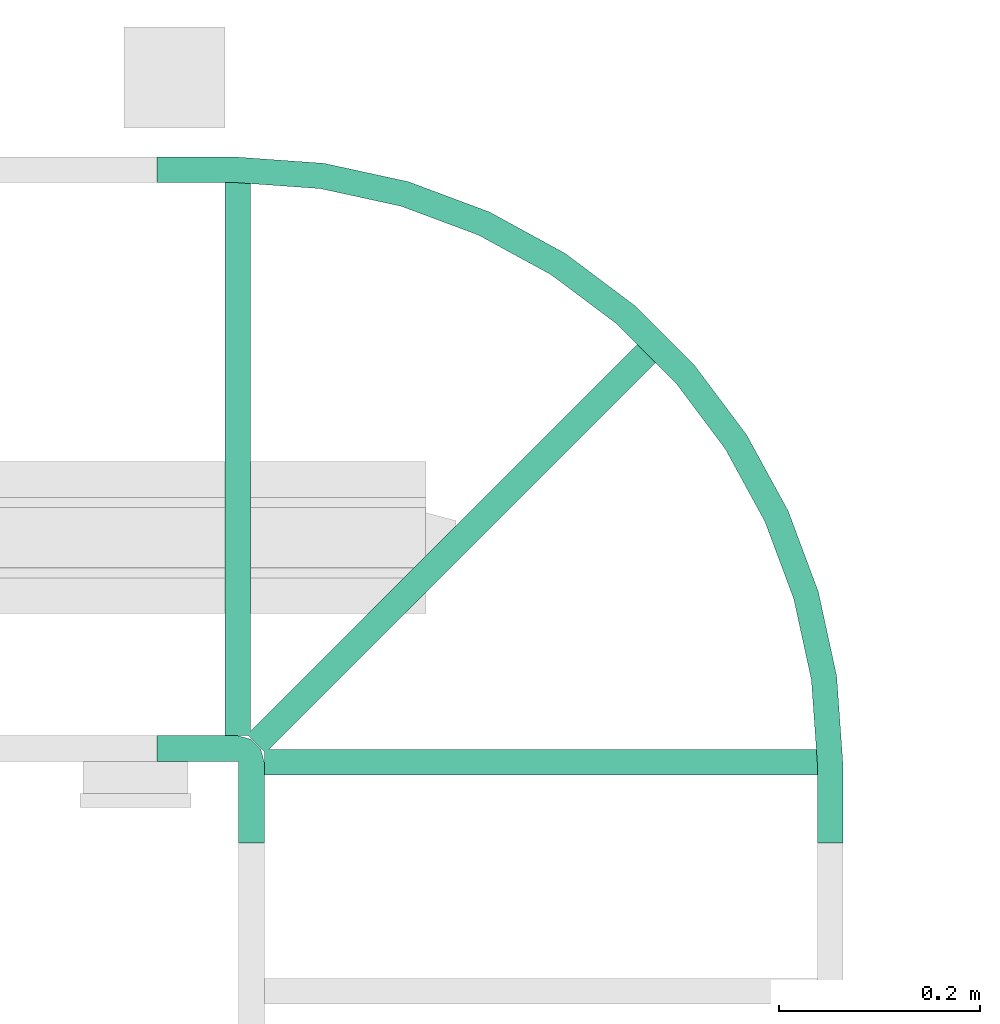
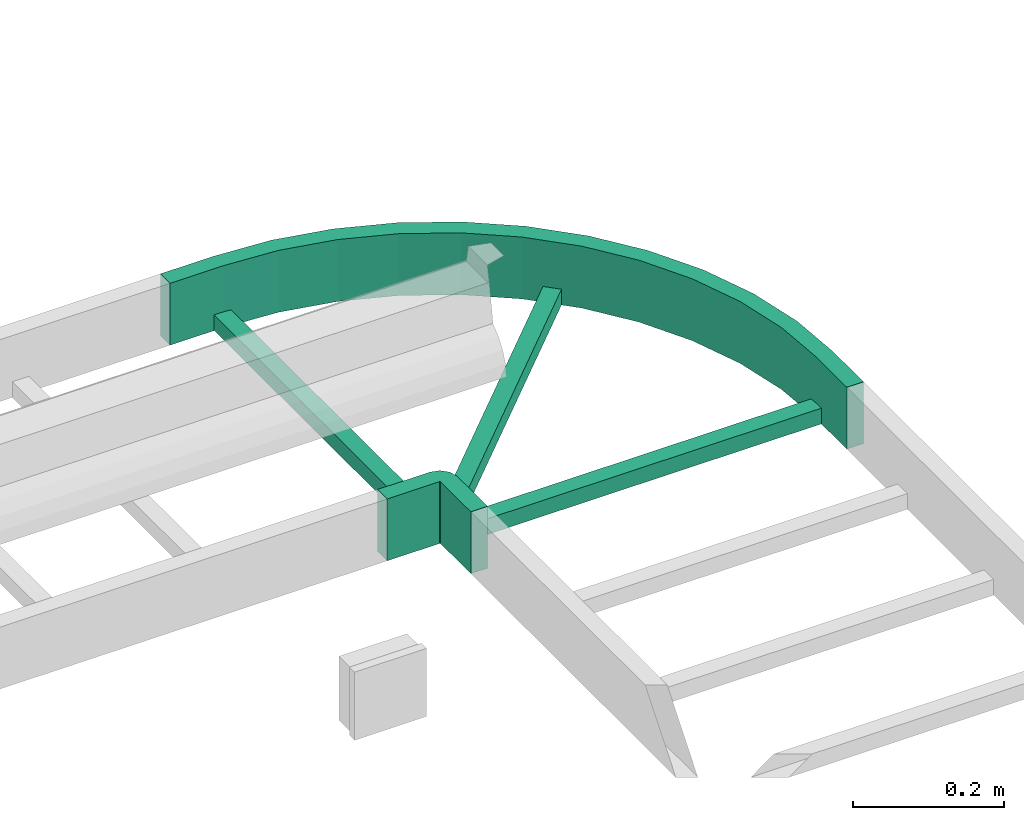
# One storey, part 13 of 14: 1 flow fitting.
"""IFC2X3 building model written with IfcOpenShell, lengths in millimetres."""

from ifc_helpers import new_model, entity, si_unit, converted_unit, derived_unit, direction, frame, origin_with_axes, place, context, subcontext, project, spatial, open_shell, surface_model, source, transform, mapped, type_object, element, save


model = new_model("IFC2X3")

# Units and contexts
model_context = context("Model", 3, precision=0.01, world=frame((0.0, 4.29681676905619e-09, 0.0)), true_north=direction((4.01073788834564e-13, 1.0)))
plan_context = context("Plan", 3, precision=0.01, world=frame((0.0, 4.29681676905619e-09, 0.0)), true_north=direction((4.01073788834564e-13, 1.0)))
body_context = subcontext(model_context, "Body", "Model", "MODEL_VIEW")
ifc_project = project(units=[converted_unit("PLANEANGLEUNIT", "DEGREE", entity("IfcPositiveLengthMeasure", 0.0174532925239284), si_unit("PLANEANGLEUNIT", "RADIAN"), dimensions=[0, 0, 0, 0, 0, 0, 0]), si_unit("AREAUNIT", "SQUARE_METRE"), si_unit("LENGTHUNIT", "METRE", prefix="MILLI"), si_unit("MASSUNIT", "GRAM", prefix="KILO"), si_unit("POWERUNIT", "WATT"), si_unit("PRESSUREUNIT", "PASCAL"), si_unit("FORCEUNIT", "NEWTON", prefix="KILO"), si_unit("ELECTRICVOLTAGEUNIT", "VOLT"), si_unit("ELECTRICCURRENTUNIT", "AMPERE"), si_unit("THERMODYNAMICTEMPERATUREUNIT", "DEGREE_CELSIUS"), si_unit("TIMEUNIT", "SECOND"), si_unit("VOLUMEUNIT", "CUBIC_METRE"), derived_unit("LINEARVELOCITYUNIT", [(si_unit("LENGTHUNIT", "METRE"), 1), (si_unit("TIMEUNIT", "SECOND"), -1)]), derived_unit("VOLUMETRICFLOWRATEUNIT", [(si_unit("VOLUMEUNIT", "CUBIC_METRE"), 1), (si_unit("TIMEUNIT", "SECOND"), -1)]), derived_unit("THERMALTRANSMITTANCEUNIT", [(si_unit("POWERUNIT", "WATT"), 1), (si_unit("THERMODYNAMICTEMPERATUREUNIT", "KELVIN"), -1), (si_unit("AREAUNIT", "SQUARE_METRE"), -1)]), derived_unit("SOUNDPRESSUREUNIT", [(si_unit("PRESSUREUNIT", "PASCAL"), 1)])], contexts=[model_context, plan_context])

# Site, building, storey
site_placement = place(None, frame((0.0, -4.29681676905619e-09, 0.0), z_axis=(0.0, 0.0, 1.0), x_axis=(1.0, 0.0, 0.0)))
site = spatial("IfcSite", under=ifc_project, at=site_placement, Name="ENGM", CompositionType="ELEMENT")
building_placement = place(site_placement, frame((0.0, 4.29681676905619e-09, 0.0), z_axis=(0.0, 0.0, 1.0), x_axis=(1.0, 0.0, 0.0)))
building = spatial("IfcBuilding", under=site, at=building_placement, Name="TH", CompositionType="ELEMENT")
storey_placement = place(building_placement, frame((0.0, 0.0, 205200.0), z_axis=(0.0, 0.0, 1.0), x_axis=(1.0, 0.0, 0.0)))
storey = spatial("IfcBuildingStorey", under=building, at=storey_placement, Name="Nivå D + 1,2 m", CompositionType="ELEMENT", Elevation=205200.0)

# Flow fitting
cable_carrier_fitting_type = type_object("IfcCableCarrierFittingType", Name="Kabelbro, bend", PredefinedType="BEND")
shared_shape = source(origin_with_axes(), body_context, "Body", "SurfaceModel", [
    surface_model("IfcShellBasedSurfaceModel", [(-274.60001, 313.7, -24.6), (-274.60001, 313.7, -50.0), (-274.60001, 288.30001, -50.0), (-274.60001, 288.30001, -24.6), (274.60001, 288.30001, -50.0), (274.60001, 313.7, -50.0), (274.60001, 313.7, -24.6), (274.60001, 288.30001, -24.6), (-288.30001, 274.60001, -24.6), (-288.30001, 274.60001, -50.0), (-313.7, 274.60001, -50.0), (-313.7, 274.60001, -24.6), (-313.7, -274.60001, -50.0), (-288.30001, -274.60001, -50.0), (-288.30001, -274.60001, -24.6), (-313.7, -274.60001, -24.6), (-273.35212, 291.31263, -24.6), (-273.35212, 291.31263, -50.0), (-291.31263, 273.35212, -50.0), (-291.31263, 273.35212, -24.6), (97.03041, -114.99092, -50.0), (114.99092, -97.03041, -50.0), (114.99092, -97.03041, -24.6), (97.03041, -114.99092, -24.6), (-381.0, -274.60001, 50.0), (-381.0, -274.60001, -50.0), (-381.0, -300.0, -50.0), (-381.0, -300.0, 50.0), (-381.0, 274.60001, 50.0), (-381.0, 300.0, -50.0), (-381.0, 274.60001, -50.0), (-381.0, 300.0, 50.0), (-301.0, -274.60001, 50.0), (-301.0, -274.60001, -50.0), (-138.83474, -251.28415, -50.0), (-61.88712, -222.58418, -50.0), (-51.33558, -245.68884, -50.0), (23.92513, -204.59338, -50.0), (-131.67874, -275.65529, -50.0), (75.93784, -134.00945, -50.0), (92.5713, -153.20549, -50.0), (10.19285, -183.22553, -50.0), (153.20549, -92.5713, -50.0), (-301.0, -300.0, -50.0), (-219.08358, -268.74123, -50.0), (-215.46879, -293.88268, -50.0), (268.74123, 219.08358, -50.0), (274.60001, 301.0, -50.0), (293.88268, 215.46879, -50.0), (275.65529, 131.67874, -50.0), (251.28415, 138.83474, -50.0), (274.60001, 381.0, -50.0), (300.0, 381.0, -50.0), (300.0, 301.0, -50.0), (134.00945, -75.93784, -50.0), (183.22553, -10.19285, -50.0), (204.59338, -23.92513, -50.0), (245.68884, 51.33558, -50.0), (222.58418, 61.88712, -50.0), (-301.0, -300.0, 50.0), (-215.46879, -293.88268, 50.0), (-131.67874, -275.65529, 50.0), (-219.08358, -268.74123, 50.0), (-138.83474, -251.28415, 50.0), (-51.33558, -245.68884, 50.0), (-61.88712, -222.58418, 50.0), (23.92513, -204.59338, 50.0), (10.19285, -183.22553, 50.0), (92.5713, -153.20549, 50.0), (75.93784, -134.00945, 50.0), (134.00945, -75.93784, 50.0), (153.20549, -92.5713, 50.0), (183.22553, -10.19285, 50.0), (204.59338, -23.92513, 50.0), (245.68884, 51.33558, 50.0), (222.58418, 61.88712, 50.0), (251.28415, 138.83474, 50.0), (275.65529, 131.67874, 50.0), (268.74123, 219.08358, 50.0), (274.60001, 301.0, 50.0), (293.88268, 215.46879, 50.0), (300.0, 301.0, 50.0), (274.60001, 381.0, 50.0), (300.0, 381.0, 50.0), (-301.0, 300.0, -50.0), (-301.0, 300.0, 50.0), (-301.0, 274.60001, -50.0), (-287.8, 278.13693, -50.0), (-300.2929, 300.2929, -50.0), (-274.60001, 301.0, -50.0), (-300.0, 301.0, -50.0), (-300.0, 381.0, -50.0), (-274.60001, 381.0, -50.0), (-278.13693, 287.8, -50.0), (-301.0, 274.60001, 50.0), (-287.8, 278.13693, 50.0), (-300.2929, 300.2929, 50.0), (-278.13693, 287.8, 50.0), (-300.0, 301.0, 50.0), (-274.60001, 301.0, 50.0), (-300.0, 381.0, 50.0), (-274.60001, 381.0, 50.0), (-293.10609, 276.71516, 50.0), (-294.4, 276.36847, -50.0), (-282.96847, 282.96847, 50.0), (-276.71516, 293.10609, 50.0), (-276.36847, 294.4, -50.0), (-282.96847, 282.96847, -50.0)], [open_shell([[[0, 1, 2]], [[2, 3, 0]], [[4, 5, 6]], [[6, 7, 4]], [[1, 0, 6]], [[6, 5, 1]], [[2, 1, 5]], [[5, 4, 2]], [[3, 2, 4]], [[4, 7, 3]], [[0, 3, 6]], [[7, 6, 3]], [[8, 9, 10]], [[10, 11, 8]], [[12, 13, 14]], [[14, 15, 12]], [[9, 8, 14]], [[14, 13, 9]], [[10, 9, 13]], [[13, 12, 10]], [[11, 10, 12]], [[12, 15, 11]], [[8, 11, 15]], [[15, 14, 8]], [[16, 17, 18]], [[18, 19, 16]], [[20, 21, 22]], [[22, 23, 20]], [[17, 16, 22]], [[22, 21, 17]], [[18, 17, 21]], [[21, 20, 18]], [[19, 18, 20]], [[20, 23, 19]], [[16, 19, 23]], [[23, 22, 16]], [[24, 25, 26]], [[26, 27, 24]], [[28, 29, 30]], [[29, 28, 31]], [[25, 24, 32]], [[32, 33, 25]], [[34, 35, 36]], [[36, 35, 37]], [[34, 36, 38]], [[39, 40, 41]], [[40, 39, 42]], [[41, 37, 35]], [[37, 41, 40]], [[26, 25, 43]], [[43, 25, 33]], [[33, 44, 45]], [[38, 45, 44]], [[44, 34, 38]], [[33, 45, 43]], [[46, 47, 48]], [[49, 50, 46]], [[51, 52, 53]], [[48, 47, 53]], [[53, 47, 51]], [[49, 46, 48]], [[54, 55, 42]], [[42, 55, 56]], [[54, 42, 39]], [[50, 57, 58]], [[57, 50, 49]], [[57, 56, 58]], [[58, 56, 55]], [[27, 26, 43]], [[43, 59, 27]], [[27, 59, 24]], [[24, 59, 32]], [[60, 61, 62]], [[62, 32, 60]], [[61, 63, 62]], [[60, 32, 59]], [[63, 64, 65]], [[64, 63, 61]], [[65, 64, 66]], [[67, 66, 68]], [[66, 67, 65]], [[69, 68, 70]], [[68, 69, 67]], [[70, 71, 72]], [[71, 70, 68]], [[72, 71, 73]], [[73, 74, 75]], [[76, 74, 77]], [[74, 76, 75]], [[73, 75, 72]], [[76, 77, 78]], [[79, 78, 80]], [[81, 82, 79]], [[83, 82, 81]], [[81, 79, 80]], [[77, 80, 78]], [[29, 31, 84]], [[85, 84, 31]], [[86, 84, 87]], [[30, 29, 86]], [[86, 29, 84]], [[84, 88, 87]], [[89, 90, 91]], [[89, 91, 92]], [[93, 87, 88]], [[93, 90, 89]], [[93, 88, 90]], [[28, 30, 94]], [[86, 94, 30]], [[28, 94, 31]], [[85, 31, 94]], [[95, 96, 85]], [[85, 94, 95]], [[96, 97, 98]], [[98, 97, 99]], [[99, 100, 98]], [[100, 99, 101]], [[97, 96, 95]], [[33, 62, 44]], [[44, 63, 34]], [[69, 39, 41]], [[65, 35, 34]], [[65, 41, 35]], [[62, 63, 44]], [[33, 32, 62]], [[34, 63, 65]], [[41, 67, 69]], [[67, 41, 65]], [[69, 54, 39]], [[55, 54, 70]], [[55, 72, 58]], [[46, 50, 76]], [[75, 50, 58]], [[47, 46, 78]], [[70, 72, 55]], [[72, 75, 58]], [[50, 75, 76]], [[76, 78, 46]], [[78, 79, 47]], [[69, 70, 54]], [[45, 60, 43]], [[38, 61, 45]], [[37, 40, 68]], [[36, 64, 38]], [[64, 36, 37]], [[45, 61, 60]], [[60, 59, 43]], [[38, 64, 61]], [[68, 66, 37]], [[37, 66, 64]], [[40, 42, 68]], [[71, 42, 56]], [[57, 73, 56]], [[77, 49, 48]], [[57, 49, 74]], [[80, 48, 53]], [[56, 73, 71]], [[57, 74, 73]], [[77, 74, 49]], [[48, 80, 77]], [[53, 81, 80]], [[42, 71, 68]], [[84, 85, 96]], [[88, 84, 96]], [[98, 90, 96]], [[88, 96, 90]], [[87, 102, 103]], [[87, 95, 102]], [[103, 94, 86]], [[94, 103, 102]], [[93, 97, 104]], [[99, 105, 106]], [[97, 93, 105]], [[87, 107, 95]], [[99, 106, 89]], [[105, 93, 106]], [[107, 93, 104]], [[95, 107, 104]], [[52, 51, 82]], [[82, 83, 52]], [[92, 91, 100]], [[100, 101, 92]], [[47, 79, 82]], [[82, 51, 47]], [[81, 53, 52]], [[52, 83, 81]], [[90, 98, 100]], [[100, 91, 90]], [[99, 89, 101]], [[92, 101, 89]]])]),
])
flow_fitting_placement = place(storey_placement, frame((900805.0, 481175.0, 4345.29999999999), z_axis=(0.0, 0.0, 1.0), x_axis=(0.0, 1.0, 0.0)))
element("IfcFlowFitting", 1, at=flow_fitting_placement, inside=storey, type_object=cable_carrier_fitting_type, Name="Kabelbro, bend", context=body_context, shape_type="MappedRepresentation", body=[
    mapped(shared_shape, transform((0.0, 0.0, 0.0), scale=1.0)),
])

save(model, "model.ifc")
